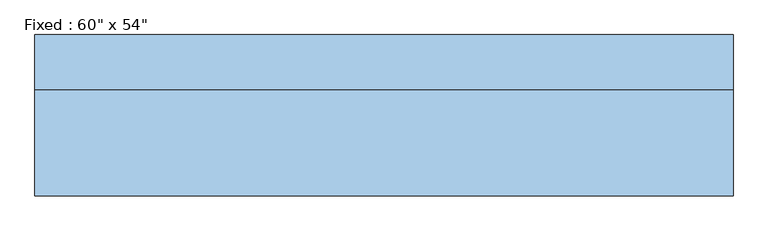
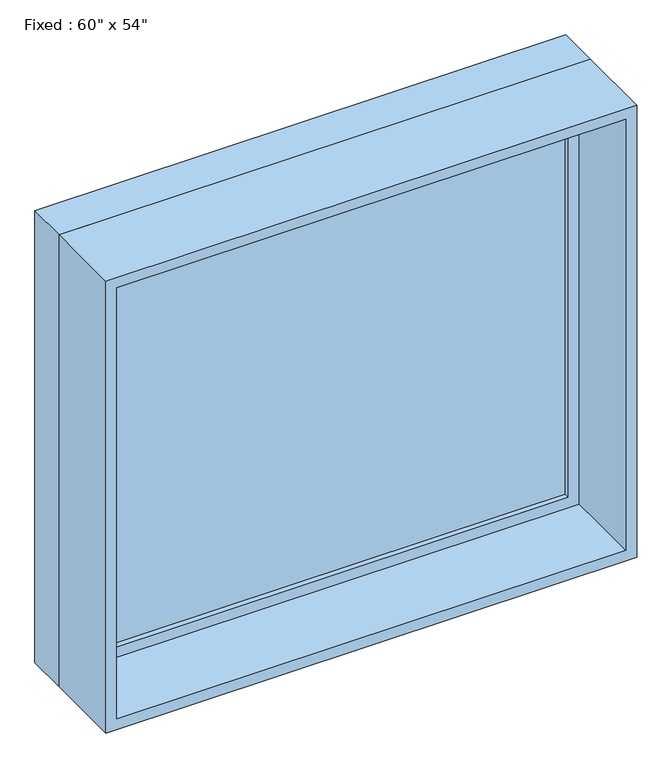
"""IFC4 building model written with IfcOpenShell, lengths in millimetres: window geometry."""

from ifc_helpers import new_model, si_unit, frame, origin, place, context, project, spatial, polyline, outline, extrude, source, transform, mapped, element, save


def window_7a027cf8(model_context):
    return source(origin(), model_context, "Body", "SweptSolid", [
        extrude(outline(polyline([(660.4, 71.4375), (-736.6, 71.4375), (-736.6, 84.1375), (660.4, 84.1375), (660.4, 71.4375)])), frame((0.0, 0.0, 1892.3), z_axis=(0.0, 0.0, 1.0), x_axis=(1.0, 0.0, 0.0)), (0.0, 0.0, 1.0), 1244.6),
        extrude(outline(polyline([(3181.35, -781.05), (1847.85, -781.05), (1847.85, 704.85), (3181.35, 704.85), (3181.35, -781.05)]), holes=[polyline([(3136.9, -736.6), (3136.9, 660.4), (1892.3, 660.4), (1892.3, -736.6), (3136.9, -736.6)])]), frame((0.0, 55.5625, 0.0), z_axis=(0.0, 1.0, 0.0), x_axis=(0.0, 0.0, 1.0)), (0.0, 0.0, 1.0), 44.45),
        extrude(outline(polyline([(3200.4, -800.1), (1828.8, -800.1), (1828.8, 723.9), (3200.4, 723.9), (3200.4, -800.1)]), holes=[polyline([(3168.65, -768.35), (3168.65, 692.15), (1860.55, 692.15), (1860.55, -768.35), (3168.65, -768.35)])]), frame((0.0, -176.2125, 0.0), z_axis=(0.0, 1.0, 0.0), x_axis=(0.0, 0.0, 1.0)), (0.0, 0.0, 1.0), 231.775),
        extrude(outline(polyline([(3200.4, 723.9), (3200.4, -800.1), (1828.8, -800.1), (1828.8, 723.9), (3200.4, 723.9)]), holes=[polyline([(3181.35, 704.85), (1847.85, 704.85), (1847.85, -781.05), (3181.35, -781.05), (3181.35, 704.85)])]), frame((0.0, 55.5625, 0.0), z_axis=(0.0, 1.0, 0.0), x_axis=(0.0, 0.0, 1.0)), (0.0, 0.0, 1.0), 120.65),
    ])


if __name__ == "__main__":
    model = new_model("IFC4")
    model_context = context("Model", 3, world=origin())
    ifc_project = project(units=[si_unit("LENGTHUNIT", "METRE", prefix="MILLI")], contexts=[model_context])
    site = spatial("IfcSite", under=ifc_project)
    building = spatial("IfcBuilding", under=site)
    placement = place(None, origin())
    window_shape = window_7a027cf8(model_context)
    element("IfcWindow", 1, ObjectType="Fixed : 60\" x 54\"", at=placement, inside=building, context=model_context, shape_type="MappedRepresentation", body=[
        mapped(window_shape, transform((0.0, 0.0, 0.0), x_axis=(1.0, 0.0, 0.0), y_axis=(0.0, 1.0, 0.0), z_axis=(0.0, 0.0, 1.0))),
    ])
    save(model, "model.ifc")
